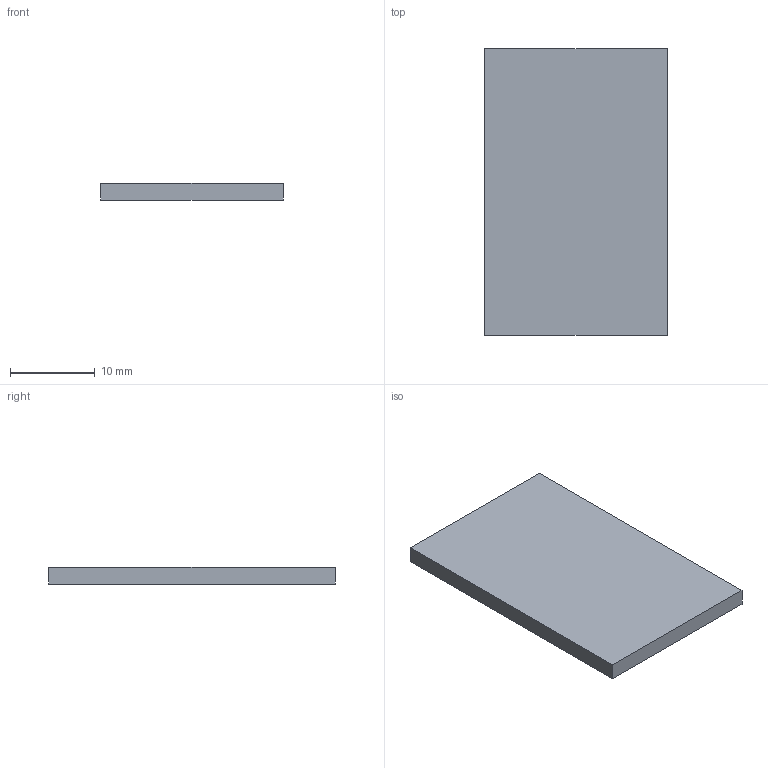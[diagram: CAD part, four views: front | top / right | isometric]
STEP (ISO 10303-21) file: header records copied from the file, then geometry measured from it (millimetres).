
FILE_DESCRIPTION(('FreeCAD Model'),'2;1');
FILE_NAME('/var/www/3D/0T/1106673.1.1.stp','2020-04-09T21:51:30',( 'Author'),(''),'Open CASCADE STEP processor 6.9','FreeCAD','Unknown' );
FILE_SCHEMA(('AUTOMOTIVE_DESIGN { 1 0 10303 214 1 1 1 1 }'));
Length unit declared in the file: millimetre
Products named in the file (3): ASSEMBLY; Body; Pins
Assembly tree (2 placements, depth 2):
  ASSEMBLY
    Body
    Pins
Bounding box: 21.49 x 33.78 x 2.1 mm (x, y, z)
Volume: 1457.3 mm3; surface area: 1798.8 mm2
Topology: 38 solids, 38 shells, 228 faces, 456 edges, 304 vertices
Faces by surface type: plane 228
Entity records: 12026 total; most frequent: CARTESIAN_POINT 1903, DIRECTION 1830, LINE 1368, VECTOR 1368, ORIENTED_EDGE 912, PCURVE 912, DEFINITIONAL_REPRESENTATION 912, EDGE_CURVE 456
